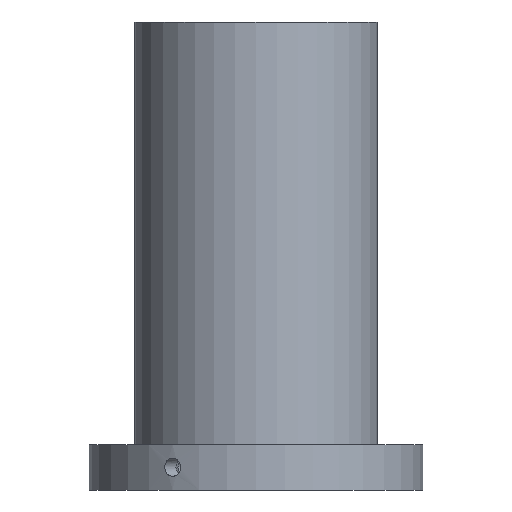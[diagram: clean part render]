
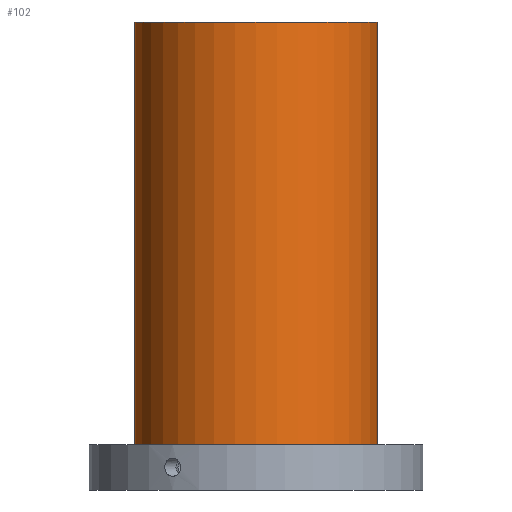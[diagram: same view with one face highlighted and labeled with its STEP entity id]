
A CAD part, front view. The second image highlights one B-rep face of the part: STEP entity #102.
In plain terms, the highlighted cylindrical face has radius 53.5 mm (diameter 107 mm), a full revolution.
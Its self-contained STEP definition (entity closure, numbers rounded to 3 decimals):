
#102=ADVANCED_FACE('',(#136,#137),#119,.T.);
#119=CYLINDRICAL_SURFACE('',#371,53.5);
#136=FACE_BOUND('',#188,.T.);
#137=FACE_BOUND('',#189,.T.);
#188=EDGE_LOOP('',(#240));
#189=EDGE_LOOP('',(#241));
#240=ORIENTED_EDGE('',*,*,#318,.F.);
#241=ORIENTED_EDGE('',*,*,#319,.T.);
#292=VERTEX_POINT('',#557);
#293=VERTEX_POINT('',#559);
#318=EDGE_CURVE('',#292,#292,#343,.T.);
#319=EDGE_CURVE('',#293,#293,#344,.T.);
#343=CIRCLE('',#369,53.5);
#344=CIRCLE('',#370,53.5);
#369=AXIS2_PLACEMENT_3D('',#556,#415,#416);
#370=AXIS2_PLACEMENT_3D('',#558,#417,#418);
#371=AXIS2_PLACEMENT_3D('',#560,#419,#420);
#415=DIRECTION('',(0.,0.,-1.));
#416=DIRECTION('',(1.,0.,0.));
#417=DIRECTION('',(0.,0.,-1.));
#418=DIRECTION('',(1.,0.,0.));
#419=DIRECTION('',(0.,0.,-1.));
#420=DIRECTION('',(-1.,0.,0.));
#556=CARTESIAN_POINT('',(0.,0.,20.));
#557=CARTESIAN_POINT('',(53.5,0.,20.));
#558=CARTESIAN_POINT('',(0.,0.,206.));
#559=CARTESIAN_POINT('',(53.5,0.,206.));
#560=CARTESIAN_POINT('',(0.,0.,206.));
